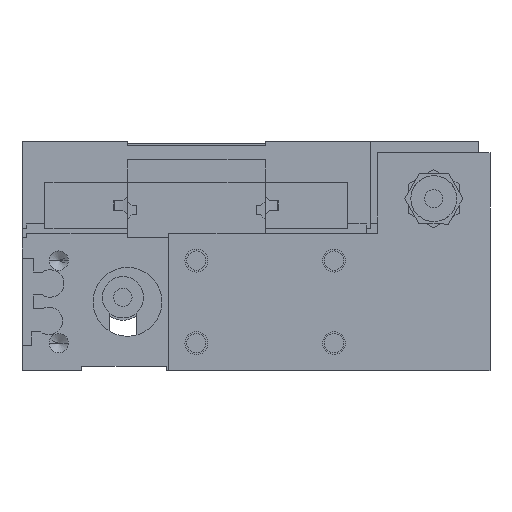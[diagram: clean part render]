
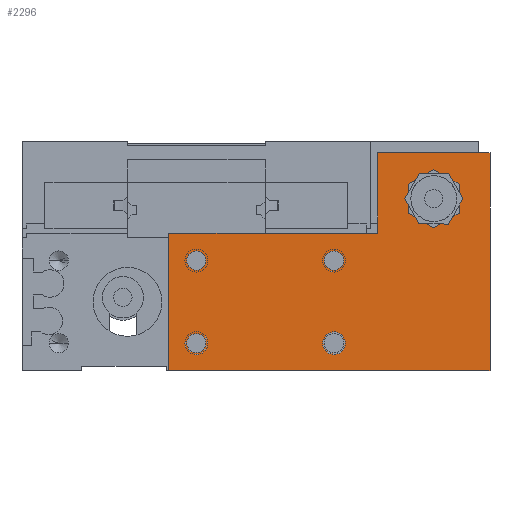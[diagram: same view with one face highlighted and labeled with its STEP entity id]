
A CAD part, front view. The second image highlights one B-rep face of the part: STEP entity #2296.
In plain terms, the highlighted planar face has unit normal (0, -1, 0) as drawn and (0, 0, 1) by its records, which use the part's own axes.
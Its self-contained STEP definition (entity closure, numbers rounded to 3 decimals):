
#2168 = VERTEX_POINT ( 'NONE', #11638 ) ;
#2169 = EDGE_CURVE ( 'NONE', #2186, #2168, #11641, .T. ) ;
#2180 = VERTEX_POINT ( 'NONE', #11630 ) ;
#2182 = VERTEX_POINT ( 'NONE', #11670 ) ;
#2184 = EDGE_CURVE ( 'NONE', #2182, #2180, #11658, .T. ) ;
#2186 = VERTEX_POINT ( 'NONE', #11657 ) ;
#2212 = VERTEX_POINT ( 'NONE', #11726 ) ;
#2217 = VERTEX_POINT ( 'NONE', #11712 ) ;
#2220 = VERTEX_POINT ( 'NONE', #11725 ) ;
#2221 = EDGE_CURVE ( 'NONE', #2212, #2220, #11711, .T. ) ;
#2227 = VERTEX_POINT ( 'NONE', #11767 ) ;
#2232 = VERTEX_POINT ( 'NONE', #11753 ) ;
#2233 = VERTEX_POINT ( 'NONE', #11752 ) ;
#2234 = EDGE_CURVE ( 'NONE', #2232, #2233, #11763, .T. ) ;
#2240 = VERTEX_POINT ( 'NONE', #11804 ) ;
#2241 = VERTEX_POINT ( 'NONE', #11803 ) ;
#2242 = EDGE_CURVE ( 'NONE', #2241, #2240, #11815, .T. ) ;
#2252 = EDGE_CURVE ( 'NONE', #2227, #2267, #11523, .T. ) ;
#2253 = VERTEX_POINT ( 'NONE', #11843 ) ;
#2259 = VERTEX_POINT ( 'NONE', #11846 ) ;
#2267 = VERTEX_POINT ( 'NONE', #11826 ) ;
#2271 = EDGE_CURVE ( 'NONE', #2217, #2227, #11876, .T. ) ;
#2283 = EDGE_CURVE ( 'NONE', #2289, #2217, #11880, .T. ) ;
#2289 = VERTEX_POINT ( 'NONE', #11867 ) ;
#2290 = EDGE_CURVE ( 'NONE', #2220, #2212, #11856, .T. ) ;
#2291 = ORIENTED_EDGE ( 'NONE', *, *, #2221, .F. ) ;
#2294 = EDGE_LOOP ( 'NONE', ( #2297, #2313 ) ) ;
#2296 = ADVANCED_FACE ( 'NONE', ( #11916, #11857, #11917, #11904, #11900, #11906 ), #11895, .F. ) ;
#2297 = ORIENTED_EDGE ( 'NONE', *, *, #2302, .F. ) ;
#2298 = ORIENTED_EDGE ( 'NONE', *, *, #2184, .F. ) ;
#2299 = ORIENTED_EDGE ( 'NONE', *, *, #2311, .F. ) ;
#2300 = EDGE_LOOP ( 'NONE', ( #2301, #2361 ) ) ;
#2301 = ORIENTED_EDGE ( 'NONE', *, *, #2304, .F. ) ;
#2302 = EDGE_CURVE ( 'NONE', #2168, #2186, #11899, .T. ) ;
#2303 = EDGE_LOOP ( 'NONE', ( #2305, #2366 ) ) ;
#2304 = EDGE_CURVE ( 'NONE', #2240, #2241, #11892, .T. ) ;
#2305 = ORIENTED_EDGE ( 'NONE', *, *, #2365, .F. ) ;
#2307 = EDGE_CURVE ( 'NONE', #2253, #2259, #11884, .T. ) ;
#2308 = EDGE_LOOP ( 'NONE', ( #2299, #2298 ) ) ;
#2309 = EDGE_CURVE ( 'NONE', #2259, #2289, #11894, .T. ) ;
#2311 = EDGE_CURVE ( 'NONE', #2180, #2182, #11947, .T. ) ;
#2313 = ORIENTED_EDGE ( 'NONE', *, *, #2169, .F. ) ;
#2319 = EDGE_CURVE ( 'NONE', #2267, #2253, #11940, .T. ) ;
#2345 = ORIENTED_EDGE ( 'NONE', *, *, #2283, .T. ) ;
#2348 = ORIENTED_EDGE ( 'NONE', *, *, #2271, .T. ) ;
#2351 = ORIENTED_EDGE ( 'NONE', *, *, #2307, .T. ) ;
#2353 = ORIENTED_EDGE ( 'NONE', *, *, #2252, .T. ) ;
#2355 = ORIENTED_EDGE ( 'NONE', *, *, #2319, .T. ) ;
#2357 = ORIENTED_EDGE ( 'NONE', *, *, #2309, .T. ) ;
#2361 = ORIENTED_EDGE ( 'NONE', *, *, #2242, .F. ) ;
#2362 = EDGE_LOOP ( 'NONE', ( #2363, #2291 ) ) ;
#2363 = ORIENTED_EDGE ( 'NONE', *, *, #2290, .F. ) ;
#2364 = EDGE_LOOP ( 'NONE', ( #2345, #2348, #2353, #2355, #2351, #2357 ) ) ;
#2365 = EDGE_CURVE ( 'NONE', #2233, #2232, #12001, .T. ) ;
#2366 = ORIENTED_EDGE ( 'NONE', *, *, #2234, .F. ) ;
#11286 = DIRECTION ( 'NONE',  ( 0., 1., 0. ) ) ;
#11523 = LINE ( 'NONE', #11527, #11526 ) ;
#11526 = VECTOR ( 'NONE', #11286, 1000. ) ;
#11527 = CARTESIAN_POINT ( 'NONE',  ( 70., 0., 12. ) ) ;
#11630 = CARTESIAN_POINT ( 'NONE',  ( 8.1, 24., 12. ) ) ;
#11634 = CARTESIAN_POINT ( 'NONE',  ( 36., 24., 12. ) ) ;
#11638 = CARTESIAN_POINT ( 'NONE',  ( 38.1, 24., 12. ) ) ;
#11641 = CIRCLE ( 'NONE', #11677, 2.1 ) ;
#11650 = CARTESIAN_POINT ( 'NONE',  ( 6., 24., 12. ) ) ;
#11655 = AXIS2_PLACEMENT_3D ( 'NONE', #11650, #11709, #11708 ) ;
#11657 = CARTESIAN_POINT ( 'NONE',  ( 33.9, 24., 12. ) ) ;
#11658 = CIRCLE ( 'NONE', #11655, 2.1 ) ;
#11670 = CARTESIAN_POINT ( 'NONE',  ( 3.9, 24., 12. ) ) ;
#11675 = DIRECTION ( 'NONE',  ( 1., 0., 0. ) ) ;
#11676 = DIRECTION ( 'NONE',  ( 0., 0., 1. ) ) ;
#11677 = AXIS2_PLACEMENT_3D ( 'NONE', #11634, #11676, #11675 ) ;
#11708 = DIRECTION ( 'NONE',  ( 1., 0., 0. ) ) ;
#11709 = DIRECTION ( 'NONE',  ( 0., 0., 1. ) ) ;
#11711 = CIRCLE ( 'NONE', #11777, 5. ) ;
#11712 = CARTESIAN_POINT ( 'NONE',  ( 0., 0., 12. ) ) ;
#11725 = CARTESIAN_POINT ( 'NONE',  ( 62.75, 37.5, 12. ) ) ;
#11726 = CARTESIAN_POINT ( 'NONE',  ( 52.75, 37.5, 12. ) ) ;
#11752 = CARTESIAN_POINT ( 'NONE',  ( 38.1, 6., 12. ) ) ;
#11753 = CARTESIAN_POINT ( 'NONE',  ( 33.9, 6., 12. ) ) ;
#11757 = AXIS2_PLACEMENT_3D ( 'NONE', #11818, #11817, #11816 ) ;
#11760 = AXIS2_PLACEMENT_3D ( 'NONE', #11791, #11790, #11789 ) ;
#11763 = CIRCLE ( 'NONE', #11757, 2.1 ) ;
#11767 = CARTESIAN_POINT ( 'NONE',  ( 70., 0., 12. ) ) ;
#11774 = DIRECTION ( 'NONE',  ( 1., 0., 0. ) ) ;
#11775 = DIRECTION ( 'NONE',  ( 0., 0., 1. ) ) ;
#11776 = CARTESIAN_POINT ( 'NONE',  ( 57.75, 37.5, 12. ) ) ;
#11777 = AXIS2_PLACEMENT_3D ( 'NONE', #11776, #11775, #11774 ) ;
#11789 = DIRECTION ( 'NONE',  ( 1., 0., 0. ) ) ;
#11790 = DIRECTION ( 'NONE',  ( 0., 0., 1. ) ) ;
#11791 = CARTESIAN_POINT ( 'NONE',  ( 6., 6., 12. ) ) ;
#11803 = CARTESIAN_POINT ( 'NONE',  ( 3.9, 6., 12. ) ) ;
#11804 = CARTESIAN_POINT ( 'NONE',  ( 8.1, 6., 12. ) ) ;
#11815 = CIRCLE ( 'NONE', #11760, 2.1 ) ;
#11816 = DIRECTION ( 'NONE',  ( 1., 0., 0. ) ) ;
#11817 = DIRECTION ( 'NONE',  ( 0., 0., 1. ) ) ;
#11818 = CARTESIAN_POINT ( 'NONE',  ( 36., 6., 12. ) ) ;
#11826 = CARTESIAN_POINT ( 'NONE',  ( 70., 47.5, 12. ) ) ;
#11843 = CARTESIAN_POINT ( 'NONE',  ( 45.5, 47.5, 12. ) ) ;
#11846 = CARTESIAN_POINT ( 'NONE',  ( 45.5, 30., 12. ) ) ;
#11852 = DIRECTION ( 'NONE',  ( 0., 0., -1. ) ) ;
#11853 = DIRECTION ( 'NONE',  ( 0., -1., 0. ) ) ;
#11854 = VECTOR ( 'NONE', #11853, 1000. ) ;
#11855 = CARTESIAN_POINT ( 'NONE',  ( 0., 0., 12. ) ) ;
#11856 = CIRCLE ( 'NONE', #11913, 5. ) ;
#11857 = FACE_BOUND ( 'NONE', #2294, .T. ) ;
#11867 = CARTESIAN_POINT ( 'NONE',  ( 0., 30., 12. ) ) ;
#11871 = DIRECTION ( 'NONE',  ( 1., 0., 0. ) ) ;
#11872 = VECTOR ( 'NONE', #11871, 1000. ) ;
#11873 = CARTESIAN_POINT ( 'NONE',  ( 0., 0., 12. ) ) ;
#11876 = LINE ( 'NONE', #11873, #11872 ) ;
#11880 = LINE ( 'NONE', #11855, #11854 ) ;
#11881 = DIRECTION ( 'NONE',  ( 1., 0., 0. ) ) ;
#11882 = DIRECTION ( 'NONE',  ( 0., 0., 1. ) ) ;
#11883 = CARTESIAN_POINT ( 'NONE',  ( 45.5, 47.5, 12. ) ) ;
#11884 = LINE ( 'NONE', #11883, #11897 ) ;
#11886 = DIRECTION ( 'NONE',  ( 1., 0., 0. ) ) ;
#11887 = DIRECTION ( 'NONE',  ( 0., 0., 1. ) ) ;
#11888 = CARTESIAN_POINT ( 'NONE',  ( 36., 24., 12. ) ) ;
#11892 = CIRCLE ( 'NONE', #11896, 2.1 ) ;
#11893 = DIRECTION ( 'NONE',  ( -1., 0., 0. ) ) ;
#11894 = LINE ( 'NONE', #11946, #11945 ) ;
#11895 = PLANE ( 'NONE',  #11905 ) ;
#11896 = AXIS2_PLACEMENT_3D ( 'NONE', #11903, #11882, #11881 ) ;
#11897 = VECTOR ( 'NONE', #11948, 1000. ) ;
#11898 = AXIS2_PLACEMENT_3D ( 'NONE', #11939, #11938, #11937 ) ;
#11899 = CIRCLE ( 'NONE', #11914, 2.1 ) ;
#11900 = FACE_BOUND ( 'NONE', #2362, .T. ) ;
#11903 = CARTESIAN_POINT ( 'NONE',  ( 6., 6., 12. ) ) ;
#11904 = FACE_BOUND ( 'NONE', #2303, .T. ) ;
#11905 = AXIS2_PLACEMENT_3D ( 'NONE', #11909, #11852, #11893 ) ;
#11906 = FACE_OUTER_BOUND ( 'NONE', #2364, .T. ) ;
#11909 = CARTESIAN_POINT ( 'NONE',  ( 0., 30., 12. ) ) ;
#11910 = DIRECTION ( 'NONE',  ( 1., 0., 0. ) ) ;
#11911 = DIRECTION ( 'NONE',  ( 0., 0., 1. ) ) ;
#11912 = CARTESIAN_POINT ( 'NONE',  ( 57.75, 37.5, 12. ) ) ;
#11913 = AXIS2_PLACEMENT_3D ( 'NONE', #11912, #11911, #11910 ) ;
#11914 = AXIS2_PLACEMENT_3D ( 'NONE', #11888, #11887, #11886 ) ;
#11916 = FACE_BOUND ( 'NONE', #2308, .T. ) ;
#11917 = FACE_BOUND ( 'NONE', #2300, .T. ) ;
#11934 = DIRECTION ( 'NONE',  ( -1., 0., 0. ) ) ;
#11935 = VECTOR ( 'NONE', #11934, 1000. ) ;
#11936 = CARTESIAN_POINT ( 'NONE',  ( 70., 47.5, 12. ) ) ;
#11937 = DIRECTION ( 'NONE',  ( 1., 0., 0. ) ) ;
#11938 = DIRECTION ( 'NONE',  ( 0., 0., 1. ) ) ;
#11939 = CARTESIAN_POINT ( 'NONE',  ( 6., 24., 12. ) ) ;
#11940 = LINE ( 'NONE', #11936, #11935 ) ;
#11944 = DIRECTION ( 'NONE',  ( -1., 0., 0. ) ) ;
#11945 = VECTOR ( 'NONE', #11944, 1000. ) ;
#11946 = CARTESIAN_POINT ( 'NONE',  ( 0., 30., 12. ) ) ;
#11947 = CIRCLE ( 'NONE', #11898, 2.1 ) ;
#11948 = DIRECTION ( 'NONE',  ( 0., -1., 0. ) ) ;
#11996 = DIRECTION ( 'NONE',  ( 1., 0., 0. ) ) ;
#11997 = DIRECTION ( 'NONE',  ( 0., 0., 1. ) ) ;
#12001 = CIRCLE ( 'NONE', #12003, 2.1 ) ;
#12003 = AXIS2_PLACEMENT_3D ( 'NONE', #12014, #11997, #11996 ) ;
#12014 = CARTESIAN_POINT ( 'NONE',  ( 36., 6., 12. ) ) ;
